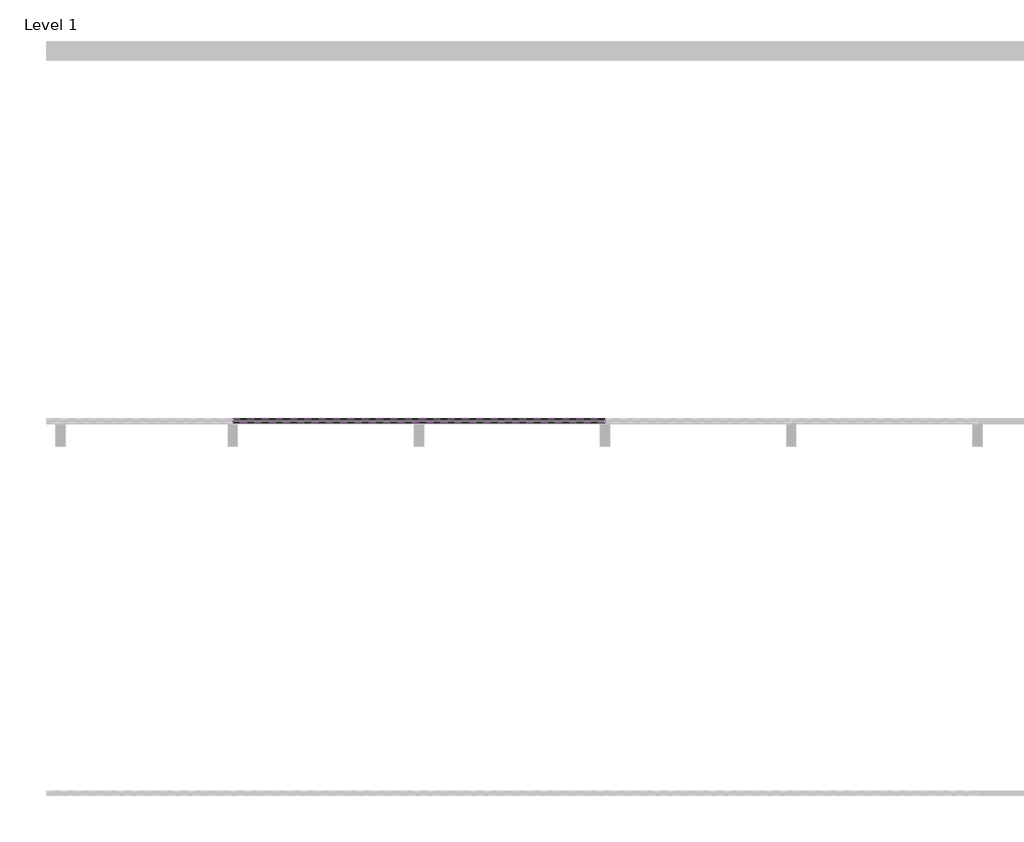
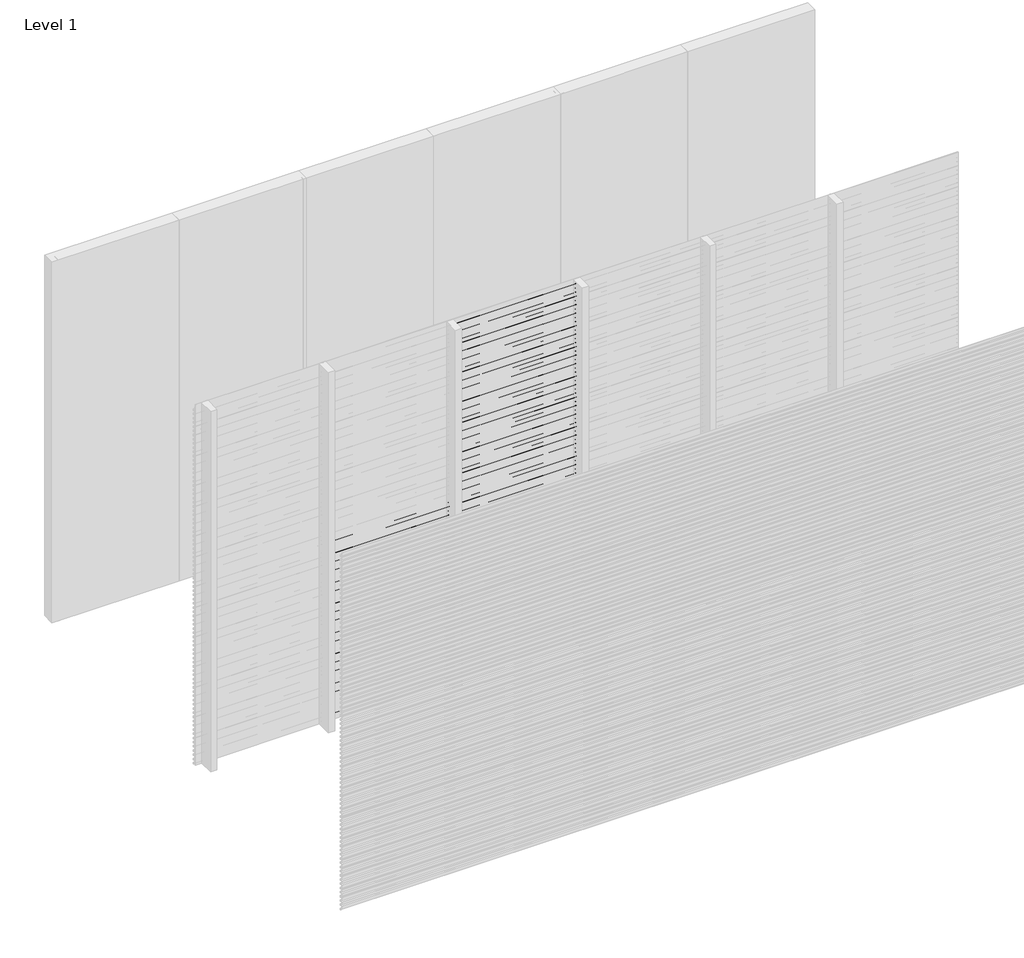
# One storey, part 4 of 25: 96 proxies.
"""IFC4 building model written with IfcOpenShell, lengths in millimetres."""

from ifc_helpers import new_model, si_unit, frame, origin, place, context, project, spatial, polyline, outline, extrude, element, save

model = new_model("IFC4")

# Units and contexts
model_context = context("Model", 3, world=origin())
ifc_project = project(units=[si_unit("LENGTHUNIT", "METRE", prefix="MILLI")], contexts=[model_context])

# Site, building, storey
site = spatial("IfcSite", under=ifc_project)
building = spatial("IfcBuilding", under=site)
storey = spatial("IfcBuildingStorey", under=building, Name="Level 1", Elevation=0.0)

# Proxies
placement = place(None, origin())
element("IfcBuildingElementProxy", 1, Name="Wall Sweeps", at=placement, inside=storey, context=model_context, shape_type="SweptSolid", body=[
    extrude(outline(polyline([(-17995.0, 2975.0), (-17995.0, 2963.942893), (-17976.0, 2948.0), (-17976.0, 2935.0), (-17997.0, 2952.6210923), (-17997.0, 2975.0), (-17995.0, 2975.0)])), frame((2000.0000001, 0.0, 0.0), z_axis=(1.0, 0.0, 0.0), x_axis=(0.0, 1.0, 0.0)), (0.0, 0.0, 1.0), 999.9999999),
])
element("IfcBuildingElementProxy", 2, Name="Wall Sweeps", at=placement, inside=storey, context=model_context, shape_type="SweptSolid", body=[
    extrude(outline(polyline([(-17995.0, 2940.0), (-17995.0, 2928.942893), (-17976.0, 2913.0), (-17976.0, 2900.0), (-17997.0, 2917.6210923), (-17997.0, 2940.0), (-17995.0, 2940.0)])), frame((2000.0000001, 0.0, 0.0), z_axis=(1.0, 0.0, 0.0), x_axis=(0.0, 1.0, 0.0)), (0.0, 0.0, 1.0), 999.9999999),
])
element("IfcBuildingElementProxy", 3, Name="Wall Sweeps", at=placement, inside=storey, context=model_context, shape_type="SweptSolid", body=[
    extrude(outline(polyline([(-17995.0, 2905.0), (-17995.0, 2893.942893), (-17976.0, 2878.0), (-17976.0, 2865.0), (-17997.0, 2882.6210923), (-17997.0, 2905.0), (-17995.0, 2905.0)])), frame((2000.0000001, 0.0, 0.0), z_axis=(1.0, 0.0, 0.0), x_axis=(0.0, 1.0, 0.0)), (0.0, 0.0, 1.0), 999.9999999),
])
element("IfcBuildingElementProxy", 4, Name="Wall Sweeps", at=placement, inside=storey, context=model_context, shape_type="SweptSolid", body=[
    extrude(outline(polyline([(-17995.0, 2870.0), (-17995.0, 2858.942893), (-17976.0, 2843.0), (-17976.0, 2830.0), (-17997.0, 2847.6210923), (-17997.0, 2870.0), (-17995.0, 2870.0)])), frame((2000.0000001, 0.0, 0.0), z_axis=(1.0, 0.0, 0.0), x_axis=(0.0, 1.0, 0.0)), (0.0, 0.0, 1.0), 999.9999999),
])
element("IfcBuildingElementProxy", 5, Name="Wall Sweeps", at=placement, inside=storey, context=model_context, shape_type="SweptSolid", body=[
    extrude(outline(polyline([(-17995.0, 2835.0), (-17995.0, 2823.942893), (-17976.0, 2808.0), (-17976.0, 2795.0), (-17997.0, 2812.6210923), (-17997.0, 2835.0), (-17995.0, 2835.0)])), frame((2000.0000001, 0.0, 0.0), z_axis=(1.0, 0.0, 0.0), x_axis=(0.0, 1.0, 0.0)), (0.0, 0.0, 1.0), 999.9999999),
])
element("IfcBuildingElementProxy", 6, Name="Wall Sweeps", at=placement, inside=storey, context=model_context, shape_type="SweptSolid", body=[
    extrude(outline(polyline([(-17995.0, 2800.0), (-17995.0, 2788.942893), (-17976.0, 2773.0), (-17976.0, 2760.0), (-17997.0, 2777.6210923), (-17997.0, 2800.0), (-17995.0, 2800.0)])), frame((2000.0000001, 0.0, 0.0), z_axis=(1.0, 0.0, 0.0), x_axis=(0.0, 1.0, 0.0)), (0.0, 0.0, 1.0), 999.9999999),
])
element("IfcBuildingElementProxy", 7, Name="Wall Sweeps", at=placement, inside=storey, context=model_context, shape_type="SweptSolid", body=[
    extrude(outline(polyline([(-17995.0, 2765.0), (-17995.0, 2753.942893), (-17976.0, 2738.0), (-17976.0, 2725.0), (-17997.0, 2742.6210923), (-17997.0, 2765.0), (-17995.0, 2765.0)])), frame((2000.0000001, 0.0, 0.0), z_axis=(1.0, 0.0, 0.0), x_axis=(0.0, 1.0, 0.0)), (0.0, 0.0, 1.0), 999.9999999),
])
element("IfcBuildingElementProxy", 8, Name="Wall Sweeps", at=placement, inside=storey, context=model_context, shape_type="SweptSolid", body=[
    extrude(outline(polyline([(-17995.0, 2730.0), (-17995.0, 2718.942893), (-17976.0, 2703.0), (-17976.0, 2690.0), (-17997.0, 2707.6210923), (-17997.0, 2730.0), (-17995.0, 2730.0)])), frame((2000.0000001, 0.0, 0.0), z_axis=(1.0, 0.0, 0.0), x_axis=(0.0, 1.0, 0.0)), (0.0, 0.0, 1.0), 999.9999999),
])
element("IfcBuildingElementProxy", 9, Name="Wall Sweeps", at=placement, inside=storey, context=model_context, shape_type="SweptSolid", body=[
    extrude(outline(polyline([(-17995.0, 2695.0), (-17995.0, 2683.942893), (-17976.0, 2668.0), (-17976.0, 2655.0), (-17997.0, 2672.6210923), (-17997.0, 2695.0), (-17995.0, 2695.0)])), frame((2000.0000001, 0.0, 0.0), z_axis=(1.0, 0.0, 0.0), x_axis=(0.0, 1.0, 0.0)), (0.0, 0.0, 1.0), 999.9999999),
])
element("IfcBuildingElementProxy", 10, Name="Wall Sweeps", at=placement, inside=storey, context=model_context, shape_type="SweptSolid", body=[
    extrude(outline(polyline([(-17995.0, 2660.0), (-17995.0, 2648.942893), (-17976.0, 2633.0), (-17976.0, 2620.0), (-17997.0, 2637.6210923), (-17997.0, 2660.0), (-17995.0, 2660.0)])), frame((2000.0000001, 0.0, 0.0), z_axis=(1.0, 0.0, 0.0), x_axis=(0.0, 1.0, 0.0)), (0.0, 0.0, 1.0), 999.9999999),
])
element("IfcBuildingElementProxy", 11, Name="Wall Sweeps", at=placement, inside=storey, context=model_context, shape_type="SweptSolid", body=[
    extrude(outline(polyline([(-17995.0, 2625.0), (-17995.0, 2613.942893), (-17976.0, 2598.0), (-17976.0, 2585.0), (-17997.0, 2602.6210923), (-17997.0, 2625.0), (-17995.0, 2625.0)])), frame((2000.0000001, 0.0, 0.0), z_axis=(1.0, 0.0, 0.0), x_axis=(0.0, 1.0, 0.0)), (0.0, 0.0, 1.0), 999.9999999),
])
element("IfcBuildingElementProxy", 12, Name="Wall Sweeps", at=placement, inside=storey, context=model_context, shape_type="SweptSolid", body=[
    extrude(outline(polyline([(-17995.0, 2590.0), (-17995.0, 2578.942893), (-17976.0, 2563.0), (-17976.0, 2550.0), (-17997.0, 2567.6210923), (-17997.0, 2590.0), (-17995.0, 2590.0)])), frame((2000.0000001, 0.0, 0.0), z_axis=(1.0, 0.0, 0.0), x_axis=(0.0, 1.0, 0.0)), (0.0, 0.0, 1.0), 999.9999999),
])
element("IfcBuildingElementProxy", 13, Name="Wall Sweeps", at=placement, inside=storey, context=model_context, shape_type="SweptSolid", body=[
    extrude(outline(polyline([(-17995.0, 2555.0), (-17995.0, 2543.942893), (-17976.0, 2528.0), (-17976.0, 2515.0), (-17997.0, 2532.6210923), (-17997.0, 2555.0), (-17995.0, 2555.0)])), frame((2000.0000001, 0.0, 0.0), z_axis=(1.0, 0.0, 0.0), x_axis=(0.0, 1.0, 0.0)), (0.0, 0.0, 1.0), 999.9999999),
])
element("IfcBuildingElementProxy", 14, Name="Wall Sweeps", at=placement, inside=storey, context=model_context, shape_type="SweptSolid", body=[
    extrude(outline(polyline([(-17995.0, 2520.0), (-17995.0, 2508.942893), (-17976.0, 2493.0), (-17976.0, 2480.0), (-17997.0, 2497.6210923), (-17997.0, 2520.0), (-17995.0, 2520.0)])), frame((2000.0000001, 0.0, 0.0), z_axis=(1.0, 0.0, 0.0), x_axis=(0.0, 1.0, 0.0)), (0.0, 0.0, 1.0), 999.9999999),
])
element("IfcBuildingElementProxy", 15, Name="Wall Sweeps", at=placement, inside=storey, context=model_context, shape_type="SweptSolid", body=[
    extrude(outline(polyline([(-17995.0, 2485.0), (-17995.0, 2473.942893), (-17976.0, 2458.0), (-17976.0, 2445.0), (-17997.0, 2462.6210923), (-17997.0, 2485.0), (-17995.0, 2485.0)])), frame((2000.0000001, 0.0, 0.0), z_axis=(1.0, 0.0, 0.0), x_axis=(0.0, 1.0, 0.0)), (0.0, 0.0, 1.0), 999.9999999),
])
element("IfcBuildingElementProxy", 16, Name="Wall Sweeps", at=placement, inside=storey, context=model_context, shape_type="SweptSolid", body=[
    extrude(outline(polyline([(-17995.0, 2450.0), (-17995.0, 2438.942893), (-17976.0, 2423.0), (-17976.0, 2410.0), (-17997.0, 2427.6210923), (-17997.0, 2450.0), (-17995.0, 2450.0)])), frame((2000.0000001, 0.0, 0.0), z_axis=(1.0, 0.0, 0.0), x_axis=(0.0, 1.0, 0.0)), (0.0, 0.0, 1.0), 999.9999999),
])
element("IfcBuildingElementProxy", 17, Name="Wall Sweeps", at=placement, inside=storey, context=model_context, shape_type="SweptSolid", body=[
    extrude(outline(polyline([(-17995.0, 2415.0), (-17995.0, 2403.942893), (-17976.0, 2388.0), (-17976.0, 2375.0), (-17997.0, 2392.6210923), (-17997.0, 2415.0), (-17995.0, 2415.0)])), frame((2000.0000001, 0.0, 0.0), z_axis=(1.0, 0.0, 0.0), x_axis=(0.0, 1.0, 0.0)), (0.0, 0.0, 1.0), 999.9999999),
])
element("IfcBuildingElementProxy", 18, Name="Wall Sweeps", at=placement, inside=storey, context=model_context, shape_type="SweptSolid", body=[
    extrude(outline(polyline([(-17995.0, 2380.0), (-17995.0, 2368.942893), (-17976.0, 2353.0), (-17976.0, 2340.0), (-17997.0, 2357.6210923), (-17997.0, 2380.0), (-17995.0, 2380.0)])), frame((2000.0000001, 0.0, 0.0), z_axis=(1.0, 0.0, 0.0), x_axis=(0.0, 1.0, 0.0)), (0.0, 0.0, 1.0), 999.9999999),
])
element("IfcBuildingElementProxy", 19, Name="Wall Sweeps", at=placement, inside=storey, context=model_context, shape_type="SweptSolid", body=[
    extrude(outline(polyline([(-17995.0, 2345.0), (-17995.0, 2333.942893), (-17976.0, 2318.0), (-17976.0, 2305.0), (-17997.0, 2322.6210923), (-17997.0, 2345.0), (-17995.0, 2345.0)])), frame((2000.0000001, 0.0, 0.0), z_axis=(1.0, 0.0, 0.0), x_axis=(0.0, 1.0, 0.0)), (0.0, 0.0, 1.0), 999.9999999),
])
element("IfcBuildingElementProxy", 20, Name="Wall Sweeps", at=placement, inside=storey, context=model_context, shape_type="SweptSolid", body=[
    extrude(outline(polyline([(-17995.0, 2310.0), (-17995.0, 2298.942893), (-17976.0, 2283.0), (-17976.0, 2270.0), (-17997.0, 2287.6210923), (-17997.0, 2310.0), (-17995.0, 2310.0)])), frame((2000.0000001, 0.0, 0.0), z_axis=(1.0, 0.0, 0.0), x_axis=(0.0, 1.0, 0.0)), (0.0, 0.0, 1.0), 999.9999999),
])
element("IfcBuildingElementProxy", 21, Name="Wall Sweeps", at=placement, inside=storey, context=model_context, shape_type="SweptSolid", body=[
    extrude(outline(polyline([(-17995.0, 2275.0), (-17995.0, 2263.942893), (-17976.0, 2248.0), (-17976.0, 2235.0), (-17997.0, 2252.6210923), (-17997.0, 2275.0), (-17995.0, 2275.0)])), frame((2000.0000001, 0.0, 0.0), z_axis=(1.0, 0.0, 0.0), x_axis=(0.0, 1.0, 0.0)), (0.0, 0.0, 1.0), 999.9999999),
])
element("IfcBuildingElementProxy", 22, Name="Wall Sweeps", at=placement, inside=storey, context=model_context, shape_type="SweptSolid", body=[
    extrude(outline(polyline([(-17995.0, 2240.0), (-17995.0, 2228.942893), (-17976.0, 2213.0), (-17976.0, 2200.0), (-17997.0, 2217.6210923), (-17997.0, 2240.0), (-17995.0, 2240.0)])), frame((2000.0000001, 0.0, 0.0), z_axis=(1.0, 0.0, 0.0), x_axis=(0.0, 1.0, 0.0)), (0.0, 0.0, 1.0), 999.9999999),
])
element("IfcBuildingElementProxy", 23, Name="Wall Sweeps", at=placement, inside=storey, context=model_context, shape_type="SweptSolid", body=[
    extrude(outline(polyline([(-17995.0, 2205.0), (-17995.0, 2193.942893), (-17976.0, 2178.0), (-17976.0, 2165.0), (-17997.0, 2182.6210923), (-17997.0, 2205.0), (-17995.0, 2205.0)])), frame((2000.0000001, 0.0, 0.0), z_axis=(1.0, 0.0, 0.0), x_axis=(0.0, 1.0, 0.0)), (0.0, 0.0, 1.0), 999.9999999),
])
element("IfcBuildingElementProxy", 24, Name="Wall Sweeps", at=placement, inside=storey, context=model_context, shape_type="SweptSolid", body=[
    extrude(outline(polyline([(-17995.0, 2170.0), (-17995.0, 2158.942893), (-17976.0, 2143.0), (-17976.0, 2130.0), (-17997.0, 2147.6210923), (-17997.0, 2170.0), (-17995.0, 2170.0)])), frame((2000.0000001, 0.0, 0.0), z_axis=(1.0, 0.0, 0.0), x_axis=(0.0, 1.0, 0.0)), (0.0, 0.0, 1.0), 999.9999999),
])
element("IfcBuildingElementProxy", 25, Name="Wall Sweeps", at=placement, inside=storey, context=model_context, shape_type="SweptSolid", body=[
    extrude(outline(polyline([(-17995.0, 2135.0), (-17995.0, 2123.942893), (-17976.0, 2108.0), (-17976.0, 2095.0), (-17997.0, 2112.6210923), (-17997.0, 2135.0), (-17995.0, 2135.0)])), frame((2000.0000001, 0.0, 0.0), z_axis=(1.0, 0.0, 0.0), x_axis=(0.0, 1.0, 0.0)), (0.0, 0.0, 1.0), 999.9999999),
])
element("IfcBuildingElementProxy", 26, Name="Wall Sweeps", at=placement, inside=storey, context=model_context, shape_type="SweptSolid", body=[
    extrude(outline(polyline([(-17995.0, 2100.0), (-17995.0, 2088.942893), (-17976.0, 2073.0), (-17976.0, 2060.0), (-17997.0, 2077.6210923), (-17997.0, 2100.0), (-17995.0, 2100.0)])), frame((2000.0000001, 0.0, 0.0), z_axis=(1.0, 0.0, 0.0), x_axis=(0.0, 1.0, 0.0)), (0.0, 0.0, 1.0), 999.9999999),
])
element("IfcBuildingElementProxy", 27, Name="Wall Sweeps", at=placement, inside=storey, context=model_context, shape_type="SweptSolid", body=[
    extrude(outline(polyline([(-17995.0, 2065.0), (-17995.0, 2053.942893), (-17976.0, 2038.0), (-17976.0, 2025.0), (-17997.0, 2042.6210923), (-17997.0, 2065.0), (-17995.0, 2065.0)])), frame((2000.0000001, 0.0, 0.0), z_axis=(1.0, 0.0, 0.0), x_axis=(0.0, 1.0, 0.0)), (0.0, 0.0, 1.0), 999.9999999),
])
element("IfcBuildingElementProxy", 28, Name="Wall Sweeps", at=placement, inside=storey, context=model_context, shape_type="SweptSolid", body=[
    extrude(outline(polyline([(-17995.0, 2030.0), (-17995.0, 2018.942893), (-17976.0, 2003.0), (-17976.0, 1990.0), (-17997.0, 2007.6210923), (-17997.0, 2030.0), (-17995.0, 2030.0)])), frame((2000.0000001, 0.0, 0.0), z_axis=(1.0, 0.0, 0.0), x_axis=(0.0, 1.0, 0.0)), (0.0, 0.0, 1.0), 999.9999999),
])
element("IfcBuildingElementProxy", 29, Name="Wall Sweeps", at=placement, inside=storey, context=model_context, shape_type="SweptSolid", body=[
    extrude(outline(polyline([(-17995.0, 1995.0), (-17995.0, 1983.942893), (-17976.0, 1968.0), (-17976.0, 1955.0), (-17997.0, 1972.6210923), (-17997.0, 1995.0), (-17995.0, 1995.0)])), frame((2000.0000001, 0.0, 0.0), z_axis=(1.0, 0.0, 0.0), x_axis=(0.0, 1.0, 0.0)), (0.0, 0.0, 1.0), 999.9999999),
])
element("IfcBuildingElementProxy", 30, Name="Wall Sweeps", at=placement, inside=storey, context=model_context, shape_type="SweptSolid", body=[
    extrude(outline(polyline([(-17995.0, 1960.0), (-17995.0, 1948.942893), (-17976.0, 1933.0), (-17976.0, 1920.0), (-17997.0, 1937.6210923), (-17997.0, 1960.0), (-17995.0, 1960.0)])), frame((2000.0000001, 0.0, 0.0), z_axis=(1.0, 0.0, 0.0), x_axis=(0.0, 1.0, 0.0)), (0.0, 0.0, 1.0), 999.9999999),
])
element("IfcBuildingElementProxy", 31, Name="Wall Sweeps", at=placement, inside=storey, context=model_context, shape_type="SweptSolid", body=[
    extrude(outline(polyline([(-17995.0, 1925.0), (-17995.0, 1913.942893), (-17976.0, 1898.0), (-17976.0, 1885.0), (-17997.0, 1902.6210923), (-17997.0, 1925.0), (-17995.0, 1925.0)])), frame((2000.0000001, 0.0, 0.0), z_axis=(1.0, 0.0, 0.0), x_axis=(0.0, 1.0, 0.0)), (0.0, 0.0, 1.0), 999.9999999),
])
element("IfcBuildingElementProxy", 32, Name="Wall Sweeps", at=placement, inside=storey, context=model_context, shape_type="SweptSolid", body=[
    extrude(outline(polyline([(-17995.0, 1890.0), (-17995.0, 1878.942893), (-17976.0, 1863.0), (-17976.0, 1850.0), (-17997.0, 1867.6210923), (-17997.0, 1890.0), (-17995.0, 1890.0)])), frame((2000.0000001, 0.0, 0.0), z_axis=(1.0, 0.0, 0.0), x_axis=(0.0, 1.0, 0.0)), (0.0, 0.0, 1.0), 999.9999999),
])
element("IfcBuildingElementProxy", 33, Name="Wall Sweeps", at=placement, inside=storey, context=model_context, shape_type="SweptSolid", body=[
    extrude(outline(polyline([(-17995.0, 1855.0), (-17995.0, 1843.942893), (-17976.0, 1828.0), (-17976.0, 1815.0), (-17997.0, 1832.6210923), (-17997.0, 1855.0), (-17995.0, 1855.0)])), frame((2000.0000001, 0.0, 0.0), z_axis=(1.0, 0.0, 0.0), x_axis=(0.0, 1.0, 0.0)), (0.0, 0.0, 1.0), 999.9999999),
])
element("IfcBuildingElementProxy", 34, Name="Wall Sweeps", at=placement, inside=storey, context=model_context, shape_type="SweptSolid", body=[
    extrude(outline(polyline([(-17995.0, 1820.0), (-17995.0, 1808.942893), (-17976.0, 1793.0), (-17976.0, 1780.0), (-17997.0, 1797.6210923), (-17997.0, 1820.0), (-17995.0, 1820.0)])), frame((2000.0000001, 0.0, 0.0), z_axis=(1.0, 0.0, 0.0), x_axis=(0.0, 1.0, 0.0)), (0.0, 0.0, 1.0), 999.9999999),
])
element("IfcBuildingElementProxy", 35, Name="Wall Sweeps", at=placement, inside=storey, context=model_context, shape_type="SweptSolid", body=[
    extrude(outline(polyline([(-17995.0, 1785.0), (-17995.0, 1773.942893), (-17976.0, 1758.0), (-17976.0, 1745.0), (-17997.0, 1762.6210923), (-17997.0, 1785.0), (-17995.0, 1785.0)])), frame((2000.0000001, 0.0, 0.0), z_axis=(1.0, 0.0, 0.0), x_axis=(0.0, 1.0, 0.0)), (0.0, 0.0, 1.0), 999.9999999),
])
element("IfcBuildingElementProxy", 36, Name="Wall Sweeps", at=placement, inside=storey, context=model_context, shape_type="SweptSolid", body=[
    extrude(outline(polyline([(-17995.0, 1750.0), (-17995.0, 1738.942893), (-17976.0, 1723.0), (-17976.0, 1710.0), (-17997.0, 1727.6210923), (-17997.0, 1750.0), (-17995.0, 1750.0)])), frame((2000.0000001, 0.0, 0.0), z_axis=(1.0, 0.0, 0.0), x_axis=(0.0, 1.0, 0.0)), (0.0, 0.0, 1.0), 999.9999999),
])
element("IfcBuildingElementProxy", 37, Name="Wall Sweeps", at=placement, inside=storey, context=model_context, shape_type="SweptSolid", body=[
    extrude(outline(polyline([(-17995.0, 1715.0), (-17995.0, 1703.942893), (-17976.0, 1688.0), (-17976.0, 1675.0), (-17997.0, 1692.6210923), (-17997.0, 1715.0), (-17995.0, 1715.0)])), frame((2000.0000001, 0.0, 0.0), z_axis=(1.0, 0.0, 0.0), x_axis=(0.0, 1.0, 0.0)), (0.0, 0.0, 1.0), 999.9999999),
])
element("IfcBuildingElementProxy", 38, Name="Wall Sweeps", at=placement, inside=storey, context=model_context, shape_type="SweptSolid", body=[
    extrude(outline(polyline([(-17995.0, 1680.0), (-17995.0, 1668.942893), (-17976.0, 1653.0), (-17976.0, 1640.0), (-17997.0, 1657.6210923), (-17997.0, 1680.0), (-17995.0, 1680.0)])), frame((2000.0000001, 0.0, 0.0), z_axis=(1.0, 0.0, 0.0), x_axis=(0.0, 1.0, 0.0)), (0.0, 0.0, 1.0), 999.9999999),
])
element("IfcBuildingElementProxy", 39, Name="Wall Sweeps", at=placement, inside=storey, context=model_context, shape_type="SweptSolid", body=[
    extrude(outline(polyline([(-17995.0, 1645.0), (-17995.0, 1633.942893), (-17976.0, 1618.0), (-17976.0, 1605.0), (-17997.0, 1622.6210923), (-17997.0, 1645.0), (-17995.0, 1645.0)])), frame((2000.0000001, 0.0, 0.0), z_axis=(1.0, 0.0, 0.0), x_axis=(0.0, 1.0, 0.0)), (0.0, 0.0, 1.0), 999.9999999),
])
element("IfcBuildingElementProxy", 40, Name="Wall Sweeps", at=placement, inside=storey, context=model_context, shape_type="SweptSolid", body=[
    extrude(outline(polyline([(-17995.0, 1610.0), (-17995.0, 1598.942893), (-17976.0, 1583.0), (-17976.0, 1570.0), (-17997.0, 1587.6210923), (-17997.0, 1610.0), (-17995.0, 1610.0)])), frame((2000.0000001, 0.0, 0.0), z_axis=(1.0, 0.0, 0.0), x_axis=(0.0, 1.0, 0.0)), (0.0, 0.0, 1.0), 999.9999999),
])
element("IfcBuildingElementProxy", 41, Name="Wall Sweeps", at=placement, inside=storey, context=model_context, shape_type="SweptSolid", body=[
    extrude(outline(polyline([(-17995.0, 1575.0), (-17995.0, 1563.942893), (-17976.0, 1548.0), (-17976.0, 1535.0), (-17997.0, 1552.6210923), (-17997.0, 1575.0), (-17995.0, 1575.0)])), frame((2000.0000001, 0.0, 0.0), z_axis=(1.0, 0.0, 0.0), x_axis=(0.0, 1.0, 0.0)), (0.0, 0.0, 1.0), 999.9999999),
])
element("IfcBuildingElementProxy", 42, Name="Wall Sweeps", at=placement, inside=storey, context=model_context, shape_type="SweptSolid", body=[
    extrude(outline(polyline([(-17995.0, 1540.0), (-17995.0, 1528.942893), (-17976.0, 1513.0), (-17976.0, 1500.0), (-17997.0, 1517.6210923), (-17997.0, 1540.0), (-17995.0, 1540.0)])), frame((2000.0000001, 0.0, 0.0), z_axis=(1.0, 0.0, 0.0), x_axis=(0.0, 1.0, 0.0)), (0.0, 0.0, 1.0), 999.9999999),
])
element("IfcBuildingElementProxy", 43, Name="Wall Sweeps", at=placement, inside=storey, context=model_context, shape_type="SweptSolid", body=[
    extrude(outline(polyline([(-17995.0, 1505.0), (-17995.0, 1493.942893), (-17976.0, 1478.0), (-17976.0, 1465.0), (-17997.0, 1482.6210923), (-17997.0, 1505.0), (-17995.0, 1505.0)])), frame((2000.0000001, 0.0, 0.0), z_axis=(1.0, 0.0, 0.0), x_axis=(0.0, 1.0, 0.0)), (0.0, 0.0, 1.0), 999.9999999),
])
element("IfcBuildingElementProxy", 44, Name="Wall Sweeps", at=placement, inside=storey, context=model_context, shape_type="SweptSolid", body=[
    extrude(outline(polyline([(-17995.0, 1470.0), (-17995.0, 1458.942893), (-17976.0, 1443.0), (-17976.0, 1430.0), (-17997.0, 1447.6210923), (-17997.0, 1470.0), (-17995.0, 1470.0)])), frame((2000.0000001, 0.0, 0.0), z_axis=(1.0, 0.0, 0.0), x_axis=(0.0, 1.0, 0.0)), (0.0, 0.0, 1.0), 999.9999999),
])
element("IfcBuildingElementProxy", 45, Name="Wall Sweeps", at=placement, inside=storey, context=model_context, shape_type="SweptSolid", body=[
    extrude(outline(polyline([(-17995.0, 1435.0), (-17995.0, 1423.942893), (-17976.0, 1408.0), (-17976.0, 1395.0), (-17997.0, 1412.6210923), (-17997.0, 1435.0), (-17995.0, 1435.0)])), frame((2000.0000001, 0.0, 0.0), z_axis=(1.0, 0.0, 0.0), x_axis=(0.0, 1.0, 0.0)), (0.0, 0.0, 1.0), 999.9999999),
])
element("IfcBuildingElementProxy", 46, Name="Wall Sweeps", at=placement, inside=storey, context=model_context, shape_type="SweptSolid", body=[
    extrude(outline(polyline([(-17995.0, 1400.0), (-17995.0, 1388.942893), (-17976.0, 1373.0), (-17976.0, 1360.0), (-17997.0, 1377.6210923), (-17997.0, 1400.0), (-17995.0, 1400.0)])), frame((2000.0000001, 0.0, 0.0), z_axis=(1.0, 0.0, 0.0), x_axis=(0.0, 1.0, 0.0)), (0.0, 0.0, 1.0), 999.9999999),
])
element("IfcBuildingElementProxy", 47, Name="Wall Sweeps", at=placement, inside=storey, context=model_context, shape_type="SweptSolid", body=[
    extrude(outline(polyline([(-17995.0, 1365.0), (-17995.0, 1353.942893), (-17976.0, 1338.0), (-17976.0, 1325.0), (-17997.0, 1342.6210923), (-17997.0, 1365.0), (-17995.0, 1365.0)])), frame((2000.0000001, 0.0, 0.0), z_axis=(1.0, 0.0, 0.0), x_axis=(0.0, 1.0, 0.0)), (0.0, 0.0, 1.0), 999.9999999),
])
element("IfcBuildingElementProxy", 48, Name="Wall Sweeps", at=placement, inside=storey, context=model_context, shape_type="SweptSolid", body=[
    extrude(outline(polyline([(-17995.0, 1330.0), (-17995.0, 1318.942893), (-17976.0, 1303.0), (-17976.0, 1290.0), (-17997.0, 1307.6210923), (-17997.0, 1330.0), (-17995.0, 1330.0)])), frame((2000.0000001, 0.0, 0.0), z_axis=(1.0, 0.0, 0.0), x_axis=(0.0, 1.0, 0.0)), (0.0, 0.0, 1.0), 999.9999999),
])
element("IfcBuildingElementProxy", 49, Name="Wall Sweeps", at=placement, inside=storey, context=model_context, shape_type="SweptSolid", body=[
    extrude(outline(polyline([(-17995.0, 1295.0), (-17995.0, 1283.942893), (-17976.0, 1268.0), (-17976.0, 1255.0), (-17997.0, 1272.6210923), (-17997.0, 1295.0), (-17995.0, 1295.0)])), frame((2000.0000001, 0.0, 0.0), z_axis=(1.0, 0.0, 0.0), x_axis=(0.0, 1.0, 0.0)), (0.0, 0.0, 1.0), 999.9999999),
])
element("IfcBuildingElementProxy", 50, Name="Wall Sweeps", at=placement, inside=storey, context=model_context, shape_type="SweptSolid", body=[
    extrude(outline(polyline([(-17995.0, 1260.0), (-17995.0, 1248.942893), (-17976.0, 1233.0), (-17976.0, 1220.0), (-17997.0, 1237.6210923), (-17997.0, 1260.0), (-17995.0, 1260.0)])), frame((2000.0000001, 0.0, 0.0), z_axis=(1.0, 0.0, 0.0), x_axis=(0.0, 1.0, 0.0)), (0.0, 0.0, 1.0), 999.9999999),
])
element("IfcBuildingElementProxy", 51, Name="Wall Sweeps", at=placement, inside=storey, context=model_context, shape_type="SweptSolid", body=[
    extrude(outline(polyline([(-17995.0, 1225.0), (-17995.0, 1213.942893), (-17976.0, 1198.0), (-17976.0, 1185.0), (-17997.0, 1202.6210923), (-17997.0, 1225.0), (-17995.0, 1225.0)])), frame((2000.0000001, 0.0, 0.0), z_axis=(1.0, 0.0, 0.0), x_axis=(0.0, 1.0, 0.0)), (0.0, 0.0, 1.0), 999.9999999),
])
element("IfcBuildingElementProxy", 52, Name="Wall Sweeps", at=placement, inside=storey, context=model_context, shape_type="SweptSolid", body=[
    extrude(outline(polyline([(-17995.0, 1190.0), (-17995.0, 1178.942893), (-17976.0, 1163.0), (-17976.0, 1150.0), (-17997.0, 1167.6210923), (-17997.0, 1190.0), (-17995.0, 1190.0)])), frame((2000.0000001, 0.0, 0.0), z_axis=(1.0, 0.0, 0.0), x_axis=(0.0, 1.0, 0.0)), (0.0, 0.0, 1.0), 999.9999999),
])
element("IfcBuildingElementProxy", 53, Name="Wall Sweeps", at=placement, inside=storey, context=model_context, shape_type="SweptSolid", body=[
    extrude(outline(polyline([(-17995.0, 1155.0), (-17995.0, 1143.942893), (-17976.0, 1128.0), (-17976.0, 1115.0), (-17997.0, 1132.6210923), (-17997.0, 1155.0), (-17995.0, 1155.0)])), frame((2000.0000001, 0.0, 0.0), z_axis=(1.0, 0.0, 0.0), x_axis=(0.0, 1.0, 0.0)), (0.0, 0.0, 1.0), 999.9999999),
])
element("IfcBuildingElementProxy", 54, Name="Wall Sweeps", at=placement, inside=storey, context=model_context, shape_type="SweptSolid", body=[
    extrude(outline(polyline([(-17995.0, 1505.0), (-17995.0, 1493.942893), (-17976.0, 1478.0), (-17976.0, 1465.0), (-17997.0, 1482.6210923), (-17997.0, 1505.0), (-17995.0, 1505.0)])), frame((1000.0000002, 0.0, 0.0), z_axis=(1.0, 0.0, 0.0), x_axis=(0.0, 1.0, 0.0)), (0.0, 0.0, 1.0), 999.9999999),
])
element("IfcBuildingElementProxy", 55, Name="Wall Sweeps", at=placement, inside=storey, context=model_context, shape_type="SweptSolid", body=[
    extrude(outline(polyline([(-17995.0, 1470.0), (-17995.0, 1458.942893), (-17976.0, 1443.0), (-17976.0, 1430.0), (-17997.0, 1447.6210923), (-17997.0, 1470.0), (-17995.0, 1470.0)])), frame((1000.0000002, 0.0, 0.0), z_axis=(1.0, 0.0, 0.0), x_axis=(0.0, 1.0, 0.0)), (0.0, 0.0, 1.0), 999.9999999),
])
element("IfcBuildingElementProxy", 56, Name="Wall Sweeps", at=placement, inside=storey, context=model_context, shape_type="SweptSolid", body=[
    extrude(outline(polyline([(-17995.0, 1435.0), (-17995.0, 1423.942893), (-17976.0, 1408.0), (-17976.0, 1395.0), (-17997.0, 1412.6210923), (-17997.0, 1435.0), (-17995.0, 1435.0)])), frame((1000.0000002, 0.0, 0.0), z_axis=(1.0, 0.0, 0.0), x_axis=(0.0, 1.0, 0.0)), (0.0, 0.0, 1.0), 999.9999999),
])
element("IfcBuildingElementProxy", 57, Name="Wall Sweeps", at=placement, inside=storey, context=model_context, shape_type="SweptSolid", body=[
    extrude(outline(polyline([(-17995.0, 1400.0), (-17995.0, 1388.942893), (-17976.0, 1373.0), (-17976.0, 1360.0), (-17997.0, 1377.6210923), (-17997.0, 1400.0), (-17995.0, 1400.0)])), frame((1000.0000002, 0.0, 0.0), z_axis=(1.0, 0.0, 0.0), x_axis=(0.0, 1.0, 0.0)), (0.0, 0.0, 1.0), 999.9999999),
])
element("IfcBuildingElementProxy", 58, Name="Wall Sweeps", at=placement, inside=storey, context=model_context, shape_type="SweptSolid", body=[
    extrude(outline(polyline([(-17995.0, 1365.0), (-17995.0, 1353.942893), (-17976.0, 1338.0), (-17976.0, 1325.0), (-17997.0, 1342.6210923), (-17997.0, 1365.0), (-17995.0, 1365.0)])), frame((1000.0000002, 0.0, 0.0), z_axis=(1.0, 0.0, 0.0), x_axis=(0.0, 1.0, 0.0)), (0.0, 0.0, 1.0), 999.9999999),
])
element("IfcBuildingElementProxy", 59, Name="Wall Sweeps", at=placement, inside=storey, context=model_context, shape_type="SweptSolid", body=[
    extrude(outline(polyline([(-17995.0, 1330.0), (-17995.0, 1318.942893), (-17976.0, 1303.0), (-17976.0, 1290.0), (-17997.0, 1307.6210923), (-17997.0, 1330.0), (-17995.0, 1330.0)])), frame((1000.0000002, 0.0, 0.0), z_axis=(1.0, 0.0, 0.0), x_axis=(0.0, 1.0, 0.0)), (0.0, 0.0, 1.0), 999.9999999),
])
element("IfcBuildingElementProxy", 60, Name="Wall Sweeps", at=placement, inside=storey, context=model_context, shape_type="SweptSolid", body=[
    extrude(outline(polyline([(-17995.0, 1295.0), (-17995.0, 1283.942893), (-17976.0, 1268.0), (-17976.0, 1255.0), (-17997.0, 1272.6210923), (-17997.0, 1295.0), (-17995.0, 1295.0)])), frame((1000.0000002, 0.0, 0.0), z_axis=(1.0, 0.0, 0.0), x_axis=(0.0, 1.0, 0.0)), (0.0, 0.0, 1.0), 999.9999999),
])
element("IfcBuildingElementProxy", 61, Name="Wall Sweeps", at=placement, inside=storey, context=model_context, shape_type="SweptSolid", body=[
    extrude(outline(polyline([(-17995.0, 1260.0), (-17995.0, 1248.942893), (-17976.0, 1233.0), (-17976.0, 1220.0), (-17997.0, 1237.6210923), (-17997.0, 1260.0), (-17995.0, 1260.0)])), frame((1000.0000002, 0.0, 0.0), z_axis=(1.0, 0.0, 0.0), x_axis=(0.0, 1.0, 0.0)), (0.0, 0.0, 1.0), 999.9999999),
])
element("IfcBuildingElementProxy", 62, Name="Wall Sweeps", at=placement, inside=storey, context=model_context, shape_type="SweptSolid", body=[
    extrude(outline(polyline([(-17995.0, 1225.0), (-17995.0, 1213.942893), (-17976.0, 1198.0), (-17976.0, 1185.0), (-17997.0, 1202.6210923), (-17997.0, 1225.0), (-17995.0, 1225.0)])), frame((1000.0000002, 0.0, 0.0), z_axis=(1.0, 0.0, 0.0), x_axis=(0.0, 1.0, 0.0)), (0.0, 0.0, 1.0), 999.9999999),
])
element("IfcBuildingElementProxy", 63, Name="Wall Sweeps", at=placement, inside=storey, context=model_context, shape_type="SweptSolid", body=[
    extrude(outline(polyline([(-17995.0, 1190.0), (-17995.0, 1178.942893), (-17976.0, 1163.0), (-17976.0, 1150.0), (-17997.0, 1167.6210923), (-17997.0, 1190.0), (-17995.0, 1190.0)])), frame((1000.0000002, 0.0, 0.0), z_axis=(1.0, 0.0, 0.0), x_axis=(0.0, 1.0, 0.0)), (0.0, 0.0, 1.0), 999.9999999),
])
element("IfcBuildingElementProxy", 64, Name="Wall Sweeps", at=placement, inside=storey, context=model_context, shape_type="SweptSolid", body=[
    extrude(outline(polyline([(-17995.0, 1155.0), (-17995.0, 1143.942893), (-17976.0, 1128.0), (-17976.0, 1115.0), (-17997.0, 1132.6210923), (-17997.0, 1155.0), (-17995.0, 1155.0)])), frame((1000.0000002, 0.0, 0.0), z_axis=(1.0, 0.0, 0.0), x_axis=(0.0, 1.0, 0.0)), (0.0, 0.0, 1.0), 999.9999999),
])
element("IfcBuildingElementProxy", 65, Name="Wall Sweeps", at=placement, inside=storey, context=model_context, shape_type="SweptSolid", body=[
    extrude(outline(polyline([(-17995.0, 1120.0), (-17995.0, 1108.942893), (-17976.0, 1093.0), (-17976.0, 1080.0), (-17997.0, 1097.6210923), (-17997.0, 1120.0), (-17995.0, 1120.0)])), frame((1000.0000002, 0.0, 0.0), z_axis=(1.0, 0.0, 0.0), x_axis=(0.0, 1.0, 0.0)), (0.0, 0.0, 1.0), 999.9999999),
])
element("IfcBuildingElementProxy", 66, Name="Wall Sweeps", at=placement, inside=storey, context=model_context, shape_type="SweptSolid", body=[
    extrude(outline(polyline([(-17995.0, 1085.0), (-17995.0, 1073.942893), (-17976.0, 1058.0), (-17976.0, 1045.0), (-17997.0, 1062.6210923), (-17997.0, 1085.0), (-17995.0, 1085.0)])), frame((1000.0000002, 0.0, 0.0), z_axis=(1.0, 0.0, 0.0), x_axis=(0.0, 1.0, 0.0)), (0.0, 0.0, 1.0), 999.9999999),
])
element("IfcBuildingElementProxy", 67, Name="Wall Sweeps", at=placement, inside=storey, context=model_context, shape_type="SweptSolid", body=[
    extrude(outline(polyline([(-17995.0, 1050.0), (-17995.0, 1038.942893), (-17976.0, 1023.0), (-17976.0, 1010.0), (-17997.0, 1027.6210923), (-17997.0, 1050.0), (-17995.0, 1050.0)])), frame((1000.0000002, 0.0, 0.0), z_axis=(1.0, 0.0, 0.0), x_axis=(0.0, 1.0, 0.0)), (0.0, 0.0, 1.0), 999.9999999),
])
element("IfcBuildingElementProxy", 68, Name="Wall Sweeps", at=placement, inside=storey, context=model_context, shape_type="SweptSolid", body=[
    extrude(outline(polyline([(-17995.0, 1015.0), (-17995.0, 1003.942893), (-17976.0, 988.0), (-17976.0, 975.0), (-17997.0, 992.6210923), (-17997.0, 1015.0), (-17995.0, 1015.0)])), frame((1000.0000002, 0.0, 0.0), z_axis=(1.0, 0.0, 0.0), x_axis=(0.0, 1.0, 0.0)), (0.0, 0.0, 1.0), 999.9999999),
])
element("IfcBuildingElementProxy", 69, Name="Wall Sweeps", at=placement, inside=storey, context=model_context, shape_type="SweptSolid", body=[
    extrude(outline(polyline([(-17995.0, 980.0), (-17995.0, 968.942893), (-17976.0, 953.0), (-17976.0, 940.0), (-17997.0, 957.6210923), (-17997.0, 980.0), (-17995.0, 980.0)])), frame((1000.0000002, 0.0, 0.0), z_axis=(1.0, 0.0, 0.0), x_axis=(0.0, 1.0, 0.0)), (0.0, 0.0, 1.0), 999.9999999),
])
element("IfcBuildingElementProxy", 70, Name="Wall Sweeps", at=placement, inside=storey, context=model_context, shape_type="SweptSolid", body=[
    extrude(outline(polyline([(-17995.0, 945.0), (-17995.0, 933.942893), (-17976.0, 918.0), (-17976.0, 905.0), (-17997.0, 922.6210923), (-17997.0, 945.0), (-17995.0, 945.0)])), frame((1000.0000002, 0.0, 0.0), z_axis=(1.0, 0.0, 0.0), x_axis=(0.0, 1.0, 0.0)), (0.0, 0.0, 1.0), 999.9999999),
])
element("IfcBuildingElementProxy", 71, Name="Wall Sweeps", at=placement, inside=storey, context=model_context, shape_type="SweptSolid", body=[
    extrude(outline(polyline([(-17995.0, 910.0), (-17995.0, 898.942893), (-17976.0, 883.0), (-17976.0, 870.0), (-17997.0, 887.6210923), (-17997.0, 910.0), (-17995.0, 910.0)])), frame((1000.0000002, 0.0, 0.0), z_axis=(1.0, 0.0, 0.0), x_axis=(0.0, 1.0, 0.0)), (0.0, 0.0, 1.0), 999.9999999),
])
element("IfcBuildingElementProxy", 72, Name="Wall Sweeps", at=placement, inside=storey, context=model_context, shape_type="SweptSolid", body=[
    extrude(outline(polyline([(-17995.0, 875.0), (-17995.0, 863.942893), (-17976.0, 848.0), (-17976.0, 835.0), (-17997.0, 852.6210923), (-17997.0, 875.0), (-17995.0, 875.0)])), frame((1000.0000002, 0.0, 0.0), z_axis=(1.0, 0.0, 0.0), x_axis=(0.0, 1.0, 0.0)), (0.0, 0.0, 1.0), 999.9999999),
])
element("IfcBuildingElementProxy", 73, Name="Wall Sweeps", at=placement, inside=storey, context=model_context, shape_type="SweptSolid", body=[
    extrude(outline(polyline([(-17995.0, 840.0), (-17995.0, 828.942893), (-17976.0, 813.0), (-17976.0, 800.0), (-17997.0, 817.6210923), (-17997.0, 840.0), (-17995.0, 840.0)])), frame((1000.0000002, 0.0, 0.0), z_axis=(1.0, 0.0, 0.0), x_axis=(0.0, 1.0, 0.0)), (0.0, 0.0, 1.0), 999.9999999),
])
element("IfcBuildingElementProxy", 74, Name="Wall Sweeps", at=placement, inside=storey, context=model_context, shape_type="SweptSolid", body=[
    extrude(outline(polyline([(-17995.0, 805.0), (-17995.0, 793.942893), (-17976.0, 778.0), (-17976.0, 765.0), (-17997.0, 782.6210923), (-17997.0, 805.0), (-17995.0, 805.0)])), frame((1000.0000002, 0.0, 0.0), z_axis=(1.0, 0.0, 0.0), x_axis=(0.0, 1.0, 0.0)), (0.0, 0.0, 1.0), 999.9999999),
])
element("IfcBuildingElementProxy", 75, Name="Wall Sweeps", at=placement, inside=storey, context=model_context, shape_type="SweptSolid", body=[
    extrude(outline(polyline([(-17995.0, 770.0), (-17995.0, 758.942893), (-17976.0, 743.0), (-17976.0, 730.0), (-17997.0, 747.6210923), (-17997.0, 770.0), (-17995.0, 770.0)])), frame((1000.0000002, 0.0, 0.0), z_axis=(1.0, 0.0, 0.0), x_axis=(0.0, 1.0, 0.0)), (0.0, 0.0, 1.0), 999.9999999),
])
element("IfcBuildingElementProxy", 76, Name="Wall Sweeps", at=placement, inside=storey, context=model_context, shape_type="SweptSolid", body=[
    extrude(outline(polyline([(-17995.0, 735.0), (-17995.0, 723.942893), (-17976.0, 708.0), (-17976.0, 695.0), (-17997.0, 712.6210923), (-17997.0, 735.0), (-17995.0, 735.0)])), frame((1000.0000002, 0.0, 0.0), z_axis=(1.0, 0.0, 0.0), x_axis=(0.0, 1.0, 0.0)), (0.0, 0.0, 1.0), 999.9999999),
])
element("IfcBuildingElementProxy", 77, Name="Wall Sweeps", at=placement, inside=storey, context=model_context, shape_type="SweptSolid", body=[
    extrude(outline(polyline([(-17995.0, 700.0), (-17995.0, 688.942893), (-17976.0, 673.0), (-17976.0, 660.0), (-17997.0, 677.6210923), (-17997.0, 700.0), (-17995.0, 700.0)])), frame((1000.0000002, 0.0, 0.0), z_axis=(1.0, 0.0, 0.0), x_axis=(0.0, 1.0, 0.0)), (0.0, 0.0, 1.0), 999.9999999),
])
element("IfcBuildingElementProxy", 78, Name="Wall Sweeps", at=placement, inside=storey, context=model_context, shape_type="SweptSolid", body=[
    extrude(outline(polyline([(-17995.0, 665.0), (-17995.0, 653.942893), (-17976.0, 638.0), (-17976.0, 625.0), (-17997.0, 642.6210923), (-17997.0, 665.0), (-17995.0, 665.0)])), frame((1000.0000002, 0.0, 0.0), z_axis=(1.0, 0.0, 0.0), x_axis=(0.0, 1.0, 0.0)), (0.0, 0.0, 1.0), 999.9999999),
])
element("IfcBuildingElementProxy", 79, Name="Wall Sweeps", at=placement, inside=storey, context=model_context, shape_type="SweptSolid", body=[
    extrude(outline(polyline([(-17995.0, 630.0), (-17995.0, 618.942893), (-17976.0, 603.0), (-17976.0, 590.0), (-17997.0, 607.6210923), (-17997.0, 630.0), (-17995.0, 630.0)])), frame((1000.0000002, 0.0, 0.0), z_axis=(1.0, 0.0, 0.0), x_axis=(0.0, 1.0, 0.0)), (0.0, 0.0, 1.0), 999.9999999),
])
element("IfcBuildingElementProxy", 80, Name="Wall Sweeps", at=placement, inside=storey, context=model_context, shape_type="SweptSolid", body=[
    extrude(outline(polyline([(-17995.0, 595.0), (-17995.0, 583.942893), (-17976.0, 568.0), (-17976.0, 555.0), (-17997.0, 572.6210923), (-17997.0, 595.0), (-17995.0, 595.0)])), frame((1000.0000002, 0.0, 0.0), z_axis=(1.0, 0.0, 0.0), x_axis=(0.0, 1.0, 0.0)), (0.0, 0.0, 1.0), 999.9999999),
])
element("IfcBuildingElementProxy", 81, Name="Wall Sweeps", at=placement, inside=storey, context=model_context, shape_type="SweptSolid", body=[
    extrude(outline(polyline([(-17995.0, 560.0), (-17995.0, 548.942893), (-17976.0, 533.0), (-17976.0, 520.0), (-17997.0, 537.6210923), (-17997.0, 560.0), (-17995.0, 560.0)])), frame((1000.0000002, 0.0, 0.0), z_axis=(1.0, 0.0, 0.0), x_axis=(0.0, 1.0, 0.0)), (0.0, 0.0, 1.0), 999.9999999),
])
element("IfcBuildingElementProxy", 82, Name="Wall Sweeps", at=placement, inside=storey, context=model_context, shape_type="SweptSolid", body=[
    extrude(outline(polyline([(-17995.0, 525.0), (-17995.0, 513.942893), (-17976.0, 498.0), (-17976.0, 485.0), (-17997.0, 502.6210923), (-17997.0, 525.0), (-17995.0, 525.0)])), frame((1000.0000002, 0.0, 0.0), z_axis=(1.0, 0.0, 0.0), x_axis=(0.0, 1.0, 0.0)), (0.0, 0.0, 1.0), 999.9999999),
])
element("IfcBuildingElementProxy", 83, Name="Wall Sweeps", at=placement, inside=storey, context=model_context, shape_type="SweptSolid", body=[
    extrude(outline(polyline([(-17995.0, 490.0), (-17995.0, 478.942893), (-17976.0, 463.0), (-17976.0, 450.0), (-17997.0, 467.6210923), (-17997.0, 490.0), (-17995.0, 490.0)])), frame((1000.0000002, 0.0, 0.0), z_axis=(1.0, 0.0, 0.0), x_axis=(0.0, 1.0, 0.0)), (0.0, 0.0, 1.0), 999.9999999),
])
element("IfcBuildingElementProxy", 84, Name="Wall Sweeps", at=placement, inside=storey, context=model_context, shape_type="SweptSolid", body=[
    extrude(outline(polyline([(-17995.0, 455.0), (-17995.0, 443.942893), (-17976.0, 428.0), (-17976.0, 415.0), (-17997.0, 432.6210923), (-17997.0, 455.0), (-17995.0, 455.0)])), frame((1000.0000002, 0.0, 0.0), z_axis=(1.0, 0.0, 0.0), x_axis=(0.0, 1.0, 0.0)), (0.0, 0.0, 1.0), 999.9999999),
])
element("IfcBuildingElementProxy", 85, Name="Wall Sweeps", at=placement, inside=storey, context=model_context, shape_type="SweptSolid", body=[
    extrude(outline(polyline([(-17995.0, 420.0), (-17995.0, 408.942893), (-17976.0, 393.0), (-17976.0, 380.0), (-17997.0, 397.6210923), (-17997.0, 420.0), (-17995.0, 420.0)])), frame((1000.0000002, 0.0, 0.0), z_axis=(1.0, 0.0, 0.0), x_axis=(0.0, 1.0, 0.0)), (0.0, 0.0, 1.0), 999.9999999),
])
element("IfcBuildingElementProxy", 86, Name="Wall Sweeps", at=placement, inside=storey, context=model_context, shape_type="SweptSolid", body=[
    extrude(outline(polyline([(-17995.0, 385.0), (-17995.0, 373.942893), (-17976.0, 358.0), (-17976.0, 345.0), (-17997.0, 362.6210923), (-17997.0, 385.0), (-17995.0, 385.0)])), frame((1000.0000002, 0.0, 0.0), z_axis=(1.0, 0.0, 0.0), x_axis=(0.0, 1.0, 0.0)), (0.0, 0.0, 1.0), 999.9999999),
])
element("IfcBuildingElementProxy", 87, Name="Wall Sweeps", at=placement, inside=storey, context=model_context, shape_type="SweptSolid", body=[
    extrude(outline(polyline([(-17995.0, 350.0), (-17995.0, 338.942893), (-17976.0, 323.0), (-17976.0, 310.0), (-17997.0, 327.6210923), (-17997.0, 350.0), (-17995.0, 350.0)])), frame((1000.0000002, 0.0, 0.0), z_axis=(1.0, 0.0, 0.0), x_axis=(0.0, 1.0, 0.0)), (0.0, 0.0, 1.0), 999.9999999),
])
element("IfcBuildingElementProxy", 88, Name="Wall Sweeps", at=placement, inside=storey, context=model_context, shape_type="SweptSolid", body=[
    extrude(outline(polyline([(-17995.0, 315.0), (-17995.0, 303.942893), (-17976.0, 288.0), (-17976.0, 275.0), (-17997.0, 292.6210923), (-17997.0, 315.0), (-17995.0, 315.0)])), frame((1000.0000002, 0.0, 0.0), z_axis=(1.0, 0.0, 0.0), x_axis=(0.0, 1.0, 0.0)), (0.0, 0.0, 1.0), 999.9999999),
])
element("IfcBuildingElementProxy", 89, Name="Wall Sweeps", at=placement, inside=storey, context=model_context, shape_type="SweptSolid", body=[
    extrude(outline(polyline([(-17995.0, 280.0), (-17995.0, 268.942893), (-17976.0, 253.0), (-17976.0, 240.0), (-17997.0, 257.6210923), (-17997.0, 280.0), (-17995.0, 280.0)])), frame((1000.0000002, 0.0, 0.0), z_axis=(1.0, 0.0, 0.0), x_axis=(0.0, 1.0, 0.0)), (0.0, 0.0, 1.0), 999.9999999),
])
element("IfcBuildingElementProxy", 90, Name="Wall Sweeps", at=placement, inside=storey, context=model_context, shape_type="SweptSolid", body=[
    extrude(outline(polyline([(-17995.0, 245.0), (-17995.0, 233.942893), (-17976.0, 218.0), (-17976.0, 205.0), (-17997.0, 222.6210923), (-17997.0, 245.0), (-17995.0, 245.0)])), frame((1000.0000002, 0.0, 0.0), z_axis=(1.0, 0.0, 0.0), x_axis=(0.0, 1.0, 0.0)), (0.0, 0.0, 1.0), 999.9999999),
])
element("IfcBuildingElementProxy", 91, Name="Wall Sweeps", at=placement, inside=storey, context=model_context, shape_type="SweptSolid", body=[
    extrude(outline(polyline([(-17995.0, 210.0), (-17995.0, 198.942893), (-17976.0, 183.0), (-17976.0, 170.0), (-17997.0, 187.6210923), (-17997.0, 210.0), (-17995.0, 210.0)])), frame((1000.0000002, 0.0, 0.0), z_axis=(1.0, 0.0, 0.0), x_axis=(0.0, 1.0, 0.0)), (0.0, 0.0, 1.0), 999.9999999),
])
element("IfcBuildingElementProxy", 92, Name="Wall Sweeps", at=placement, inside=storey, context=model_context, shape_type="SweptSolid", body=[
    extrude(outline(polyline([(-17995.0, 175.0), (-17995.0, 163.942893), (-17976.0, 148.0), (-17976.0, 135.0), (-17997.0, 152.6210923), (-17997.0, 175.0), (-17995.0, 175.0)])), frame((1000.0000002, 0.0, 0.0), z_axis=(1.0, 0.0, 0.0), x_axis=(0.0, 1.0, 0.0)), (0.0, 0.0, 1.0), 999.9999999),
])
element("IfcBuildingElementProxy", 93, Name="Wall Sweeps", at=placement, inside=storey, context=model_context, shape_type="SweptSolid", body=[
    extrude(outline(polyline([(-17995.0, 140.0), (-17995.0, 128.942893), (-17976.0, 113.0), (-17976.0, 100.0), (-17997.0, 117.6210923), (-17997.0, 140.0), (-17995.0, 140.0)])), frame((1000.0000002, 0.0, 0.0), z_axis=(1.0, 0.0, 0.0), x_axis=(0.0, 1.0, 0.0)), (0.0, 0.0, 1.0), 999.9999999),
])
element("IfcBuildingElementProxy", 94, Name="Wall Sweeps", at=placement, inside=storey, context=model_context, shape_type="SweptSolid", body=[
    extrude(outline(polyline([(-17995.0, 105.0), (-17995.0, 93.942893), (-17976.0, 78.0), (-17976.0, 65.0), (-17997.0, 82.6210923), (-17997.0, 105.0), (-17995.0, 105.0)])), frame((1000.0000002, 0.0, 0.0), z_axis=(1.0, 0.0, 0.0), x_axis=(0.0, 1.0, 0.0)), (0.0, 0.0, 1.0), 999.9999999),
])
element("IfcBuildingElementProxy", 95, Name="Wall Sweeps", at=placement, inside=storey, context=model_context, shape_type="SweptSolid", body=[
    extrude(outline(polyline([(-17995.0, 70.0), (-17995.0, 58.942893), (-17976.0, 43.0), (-17976.0, 30.0), (-17997.0, 47.6210923), (-17997.0, 70.0), (-17995.0, 70.0)])), frame((1000.0000002, 0.0, 0.0), z_axis=(1.0, 0.0, 0.0), x_axis=(0.0, 1.0, 0.0)), (0.0, 0.0, 1.0), 999.9999999),
])
element("IfcBuildingElementProxy", 96, Name="Wall Sweeps", at=placement, inside=storey, context=model_context, shape_type="SweptSolid", body=[
    extrude(outline(polyline([(-17995.0, 35.0), (-17995.0, 23.942893), (-17976.0, 8.0), (-17976.0, -5.0), (-17997.0, 12.6210923), (-17997.0, 35.0), (-17995.0, 35.0)])), frame((1000.0000002, 0.0, 0.0), z_axis=(1.0, 0.0, 0.0), x_axis=(0.0, 1.0, 0.0)), (0.0, 0.0, 1.0), 999.9999999),
])

save(model, "model.ifc")
